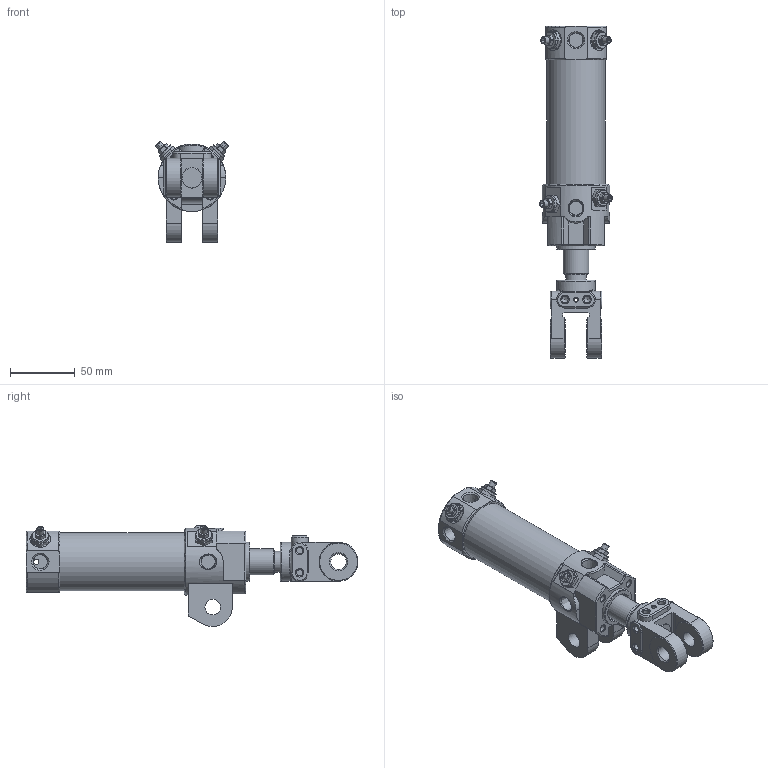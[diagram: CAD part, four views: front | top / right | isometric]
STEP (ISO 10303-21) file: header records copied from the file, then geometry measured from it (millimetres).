
FILE_DESCRIPTION((''),'2;1');
FILE_NAME('I:\3D電子目錄\氣缸\DCK\DCK\DCK-1A-40x50-Y.stp','2008-02-26T11:09:33',('Administrator'),(''),'Autodesk Inventor 11','Autodesk Inventor 11','');
FILE_SCHEMA(('AUTOMOTIVE_DESIGN { 1 0 10303 214 1 1 1 1 }'));
Length unit declared in the file: millimetre
Products named in the file (6): DCK-1A-40-Y; 緩衝針; 緩衝針-1; 緩衝針-201; 緩衝針-3
Assembly tree (8 placements, depth 3):
  DCK-1A-40-Y
    DCK-1A-40-Y
    緩衝針  x4
      緩衝針-1
      緩衝針-201
      緩衝針-3
Bounding box: 56.06 x 256 x 78.02 mm (x, y, z)
Volume: 231838.5 mm3; surface area: 92242.8 mm2
Topology: 15 solids, 15 shells, 731 faces, 1686 edges, 1042 vertices
Faces by surface type: plane 241, cylinder 217, cone 148, bspline 83, torus 40, sphere 2
Full cylindrical faces by diameter (mm): 2 x1, 3 x3, 3.8 x2, 4 x6, 4.6 x4, 5 x8, 5.1 x4, 5.2 x12, 5.5 x4, 7 x1, 7.25 x1, 7.9 x4, 8 x2, 8.3 x1, 10 x2, 12 x4, 12.8 x4, 16 x3, 20 x1, 21 x1, 22 x3, 23 x1, 24.7 x1, 26 x1, 28 x1, 29 x1, 30 x4, 33 x1, 40 x1, 42 x2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
Entity records: 24805 total; most frequent: CARTESIAN_POINT 14678, DIRECTION 1979, ORIENTED_EDGE 1952, EDGE_CURVE 976, AXIS2_PLACEMENT_3D 846, EDGE_LOOP 687, VERTEX_POINT 677, FACE_OUTER_BOUND 480
